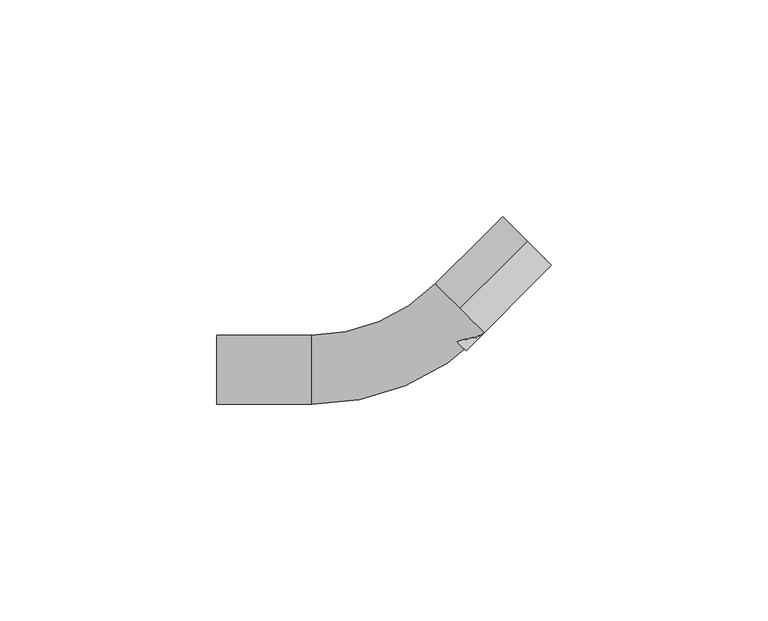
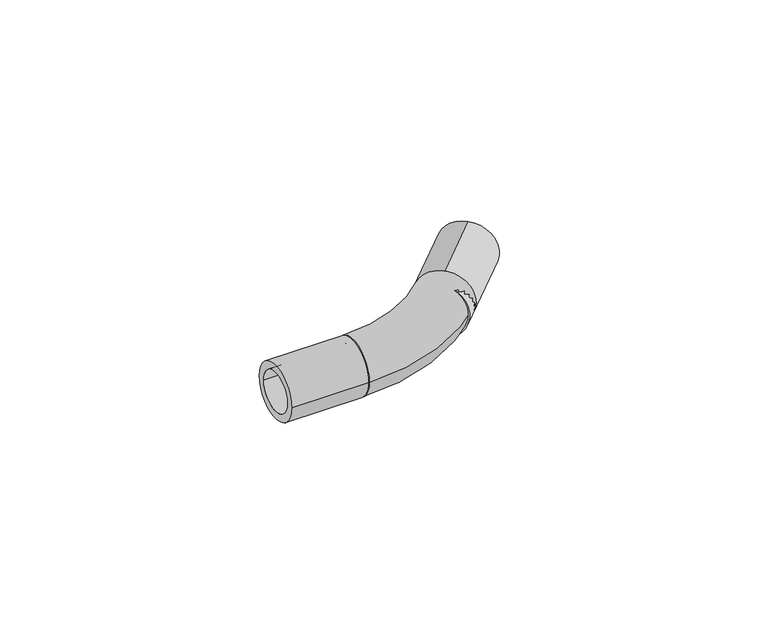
"""IFC4 building model written with IfcOpenShell, lengths in millimetres: pipe fitting geometry, REHAU_RAUTITAN_Pipe bend with former : REHAU_RAUTITAN_Pipe bend with former."""

from ifc_helpers import new_model, si_unit, point, frame, frame_2d, origin, origin_2d, place, context, project, spatial, circle_curve, ellipse_curve, trimmed, segment, composite_curve, outline, extrude, source, transform, mapped, element, save
from ifc_brep_helpers import plane_surface, revolved_surface, advanced_brep


def pipe_fitting_aa7c71b1(model_context):
    return source(origin(), model_context, "Body", "SolidModel", [
        advanced_brep(
        [(-20.0, -8.0, 0.0), (-20.0, 8.0, 0.0), (-20.0, -5.8, 0.0), (-20.0, 5.8, 0.0), (19.7989899, 8.4852814, 0.0), (8.4852814, 19.7989899, 0.0), (18.243355, 10.0409163, 0.0), (10.0409163, 18.243355, 0.0)],
        [
            (0, 1, circle_curve(frame((-20.0, 0.0, 0.0), z_axis=(-1.0, 0.0, 0.0), x_axis=(0.0, 1.0, 0.0)), 8.0)),
            (1, 0, circle_curve(frame((-20.0, 0.0, 0.0), z_axis=(-1.0, 0.0, 0.0), x_axis=(0.0, 1.0, 0.0)), 8.0)),
            (2, 3, circle_curve(frame((-20.0, 0.0, 0.0), z_axis=(1.0, 0.0, 0.0), x_axis=(0.0, 1.0, 0.0)), 5.8)),
            (3, 2, circle_curve(frame((-20.0, 0.0, 0.0), z_axis=(1.0, 0.0, 0.0), x_axis=(0.0, 1.0, 0.0)), 5.8)),
            (4, 5, circle_curve(frame((14.1421356, 14.1421356, 0.0), z_axis=(0.707106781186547, 0.707106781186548, 0.0), x_axis=(-0.707106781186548, 0.707106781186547, 0.0)), 8.0)),
            (5, 4, circle_curve(frame((14.1421356, 14.1421356, 0.0), z_axis=(0.707106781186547, 0.707106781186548, 0.0), x_axis=(-0.707106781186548, 0.707106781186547, 0.0)), 8.0)),
            (6, 7, circle_curve(frame((14.1421356, 14.1421356, 0.0), z_axis=(-0.707106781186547, -0.707106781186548, 0.0), x_axis=(-0.707106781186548, 0.707106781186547, 0.0)), 5.8)),
            (7, 6, circle_curve(frame((14.1421356, 14.1421356, 0.0), z_axis=(-0.707106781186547, -0.707106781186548, 0.0), x_axis=(-0.707106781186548, 0.707106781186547, 0.0)), 5.8)),
            (5, 1, circle_curve(frame((-20.0, 48.2842712, 0.0), z_axis=(0.0, 0.0, -1.0), x_axis=(0.0, -1.0, 0.0)), 40.2842712)),
            (0, 4, circle_curve(frame((-20.0, 48.2842712, 0.0), z_axis=(0.0, 0.0, 1.0), x_axis=(0.0, -1.0, 0.0)), 56.2842712)),
            (7, 3, circle_curve(frame((-20.0, 48.2842712, 0.0), z_axis=(0.0, 0.0, -1.0), x_axis=(0.0, -1.0, 0.0)), 42.4842712)),
            (2, 6, circle_curve(frame((-20.0, 48.2842712, 0.0), z_axis=(0.0, 0.0, 1.0), x_axis=(0.0, -1.0, 0.0)), 54.0842712)),
        ],
        [
            plane_surface(frame((-20.0, 0.0, 0.0), z_axis=(-1.0, 0.0, 0.0), x_axis=(0.0, 0.0, 1.0))),
            plane_surface(frame((14.1421356, 14.1421356, 0.0), z_axis=(0.7071067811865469, 0.7071067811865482, 0.0), x_axis=(0.0, 0.0, 1.0))),
            revolved_surface(trimmed(ellipse_curve(frame((-20.0, 0.0, 0.0), z_axis=(-1.0, 0.0, 0.0), x_axis=(0.0, 1.0, 0.0)), 8.0, 8.0), [point((-20.0, -8.0, 0.0))], [point((-20.0, 8.0, 0.0))], True, "CARTESIAN"), (-20.0, 48.2842712, 0.0), (0.0, 0.0, 1.0)),
            revolved_surface(trimmed(ellipse_curve(frame((-20.0, 0.0, 0.0), z_axis=(-1.0, 0.0, 0.0), x_axis=(0.0, 1.0, 0.0)), 8.0, 8.0), [point((-20.0, 8.0, 0.0))], [point((-20.0, -8.0, 0.0))], True, "CARTESIAN"), (-20.0, 48.2842712, 0.0), (0.0, 0.0, 1.0)),
            revolved_surface(trimmed(ellipse_curve(frame((-20.0, 0.0, 0.0), z_axis=(1.0, 0.0, 0.0), x_axis=(0.0, 1.0, 0.0)), 5.8, 5.8), [point((-20.0, -5.8, 0.0))], [point((-20.0, 5.8, 0.0))], True, "CARTESIAN"), (-20.0, 48.2842712, 0.0), (0.0, 0.0, 1.0)),
            revolved_surface(trimmed(ellipse_curve(frame((-20.0, 0.0, 0.0), z_axis=(1.0, 0.0, 0.0), x_axis=(0.0, 1.0, 0.0)), 5.8, 5.8), [point((-20.0, 5.8, 0.0))], [point((-20.0, -5.8, 0.0))], True, "CARTESIAN"), (-20.0, 48.2842712, 0.0), (0.0, 0.0, 1.0)),
        ],
        [
            (0, [[1, 2], [3, 4]]),
            (1, [[5, 6], [7, 8]]),
            (2, [[9, -1, 10, -6]]),
            (3, [[-10, -2, -9, -5]]),
            (4, [[11, -3, 12, -8]]),
            (5, [[-12, -4, -11, -7]]),
        ],
    ),
        extrude(outline(composite_curve([segment(trimmed(circle_curve(origin_2d(), 8.0), [point((8.0, 0.0))], [point((-8.0, 0.0))], False, "CARTESIAN"), True, "CONTINUOUS"), segment(trimmed(circle_curve(origin_2d(), 8.0), [point((-8.0, 0.0))], [point((8.0, 0.0))], False, "CARTESIAN"), True, "CONTINUOUS")], self_intersect=False), holes=[composite_curve([segment(trimmed(circle_curve(origin_2d(), 5.8), [point((5.8, 0.0))], [point((-5.8, 0.0))], True, "CARTESIAN"), True, "CONTINUOUS"), segment(trimmed(circle_curve(origin_2d(), 5.8), [point((-5.8, 0.0))], [point((5.8, 0.0))], True, "CARTESIAN"), True, "CONTINUOUS")], self_intersect=False)]), frame((-42.0, 0.0, 0.0), z_axis=(1.0, 0.0, 0.0), x_axis=(0.0, 1.0, 0.0)), (0.0, 0.0, 1.0), 22.0),
        extrude(outline(composite_curve([segment(trimmed(circle_curve(frame_2d((0.0, -8.0)), 8.0), [point((0.0, -16.0))], [point((0.0, 0.0))], False, "CARTESIAN"), True, "CONTINUOUS"), segment(trimmed(circle_curve(frame_2d((0.0, -8.0)), 8.0), [point((0.0, 0.0))], [point((0.0, -16.0))], False, "CARTESIAN"), True, "CONTINUOUS")], self_intersect=False), holes=[composite_curve([segment(trimmed(circle_curve(frame_2d((0.0, -8.0)), 5.8), [point((0.0, -13.8))], [point((0.0, -2.2))], True, "CARTESIAN"), True, "CONTINUOUS"), segment(trimmed(circle_curve(frame_2d((0.0, -8.0)), 5.8), [point((0.0, -2.2))], [point((0.0, -13.8))], True, "CARTESIAN"), True, "CONTINUOUS")], self_intersect=False)]), frame((10.0, 10.0, 8.0), z_axis=(0.707106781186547, 0.707106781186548, 0.0), x_axis=(-0.707106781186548, 0.707106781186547, 0.0)), (0.0, 0.0, 1.0), 27.8578644),
    ])


if __name__ == "__main__":
    model = new_model("IFC4")
    model_context = context("Model", 3, world=origin())
    ifc_project = project(units=[si_unit("LENGTHUNIT", "METRE", prefix="MILLI")], contexts=[model_context])
    site = spatial("IfcSite", under=ifc_project)
    building = spatial("IfcBuilding", under=site)
    placement = place(None, origin())
    pipe_fitting_shape = pipe_fitting_aa7c71b1(model_context)
    element("IfcPipeFitting", 1, ObjectType="REHAU_RAUTITAN_Pipe bend with former : REHAU_RAUTITAN_Pipe bend with former", at=placement, inside=building, context=model_context, shape_type="MappedRepresentation", body=[
        mapped(pipe_fitting_shape, transform((0.0, 0.0, 0.0), x_axis=(1.0, 0.0, 0.0), y_axis=(0.0, 1.0, 0.0), z_axis=(0.0, 0.0, 1.0))),
    ])
    save(model, "model.ifc")
